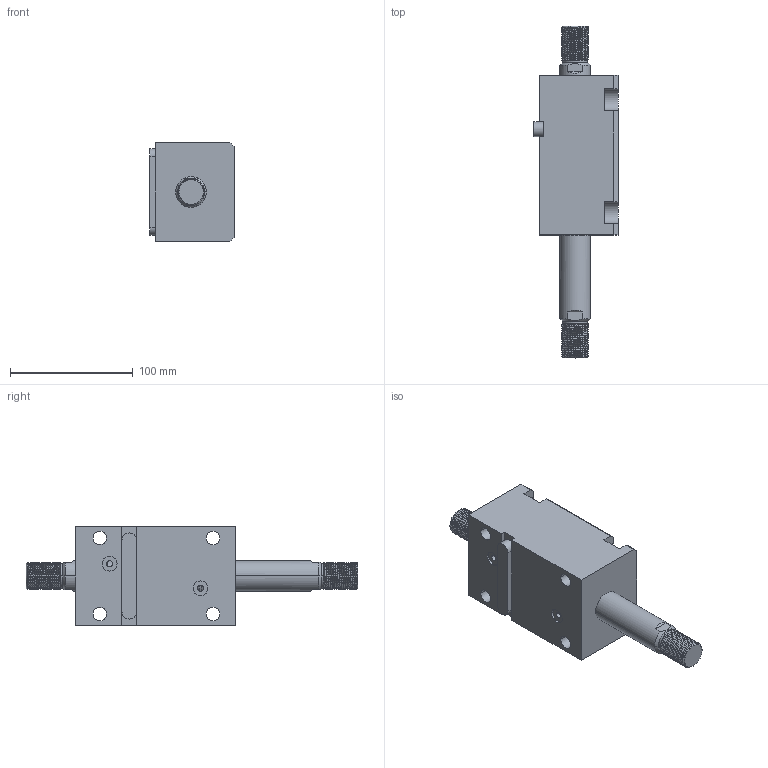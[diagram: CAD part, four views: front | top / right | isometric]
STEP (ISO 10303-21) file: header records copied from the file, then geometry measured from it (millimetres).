
FILE_DESCRIPTION (( 'STEP AP214' ), '1' );
FILE_NAME ('chtb-lwm40x60w_asm.STEP', '2018-05-31T00:44:55', ( 'Windows' ), ( 'Microsoft' ), 'SwSTEP 2.0', 'SolidWorks 2015', '' );
FILE_SCHEMA (( 'AUTOMOTIVE_DESIGN' ));
Length unit declared in the file: millimetre
Products named in the file (5): CHTB-SW40X60NHSG; CHTB-SD40QG; CHTB-LWM40X60NBT; CHTB-LA40PJ; chtb-lwm40x60w_asm
Assembly tree (4 placements, depth 2):
  chtb-lwm40x60w_asm
    CHTB-LA40PJ
    CHTB-LWM40X60NBT
    CHTB-SD40QG
    CHTB-SW40X60NHSG
Bounding box: 68.5 x 270 x 80 mm (x, y, z)
Volume: 646120.7 mm3; surface area: 110533.9 mm2
Topology: 4 solids, 4 shells, 252 faces, 699 edges, 465 vertices
Faces by surface type: cylinder 152, plane 57, bspline 18, cone 13, torus 12
Entity records: 17373 total; most frequent: CARTESIAN_POINT 11260, ORIENTED_EDGE 1386, DIRECTION 1092, EDGE_CURVE 693, VERTEX_POINT 465, AXIS2_PLACEMENT_3D 419, EDGE_LOOP 284, LINE 254
